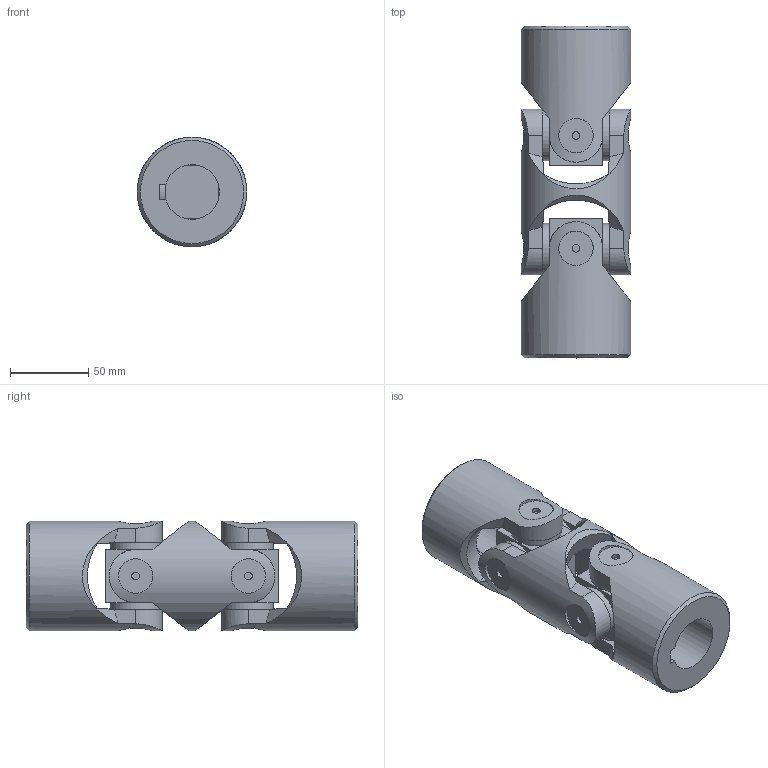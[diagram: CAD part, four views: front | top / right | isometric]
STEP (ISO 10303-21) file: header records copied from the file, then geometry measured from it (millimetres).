
FILE_DESCRIPTION(/* description */ (''),/* implementation_level */ '2;1');
FILE_NAME(/* name */ '\\SRV2016\Societa\Stefano\Disegni 3D\00Catalogo 3D\02Doppi GD-GBD\SG0D351C.stp',/* time_stamp */ '2021-11-23T15:58:14+01:00',/* author */ ('acquisti'),/* organization */ (''),/* preprocessor_version */ 'ST-DEVELOPER v15.6',/* originating_system */ 'Autodesk Inventor 2015',/* authorisation */ '');
FILE_SCHEMA (('AUTOMOTIVE_DESIGN { 1 0 10303 214 3 1 1 }'));
Length unit declared in the file: millimetre
Products named in the file (5): 7G MOD; 7G SFE; 7G MOC; 7G MOS; Ø70_7GD-00_SG0D3500
Assembly tree (5 placements, depth 2):
  Ø70_7GD-00_SG0D3500
    7G MOD
    7G SFE  x2
    7G MOC
    7G MOS
Bounding box: 70 x 212 x 70 mm (x, y, z)
Volume: 523037.2 mm3; surface area: 97294.9 mm2
Topology: 5 solids, 5 shells, 137 faces, 331 edges, 224 vertices
Faces by surface type: plane 73, cylinder 40, cone 20, torus 4
Full cylindrical faces by diameter (mm): 5 x8, 22 x8, 32 x8, 35 x1, 40 x2, 70 x3
Entity records: 4523 total; most frequent: CARTESIAN_POINT 1748, ORIENTED_EDGE 546, DIRECTION 519, EDGE_CURVE 273, AXIS2_PLACEMENT_3D 225, VERTEX_POINT 207, EDGE_LOOP 178, FACE_OUTER_BOUND 123
